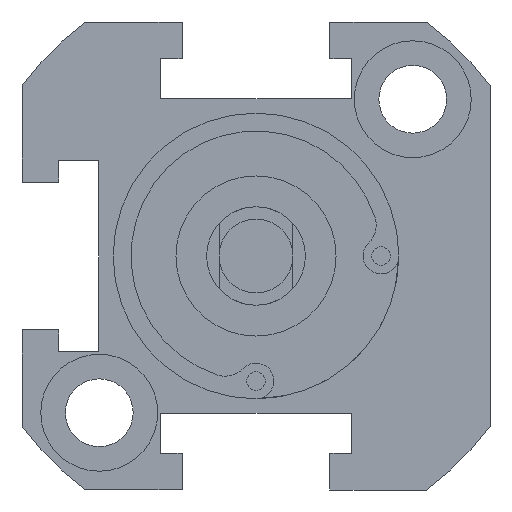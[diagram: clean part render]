
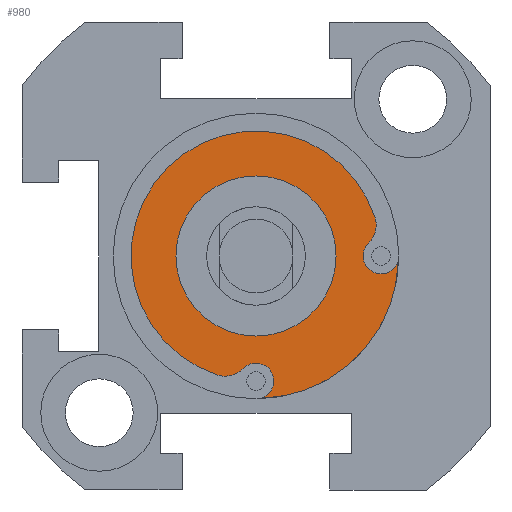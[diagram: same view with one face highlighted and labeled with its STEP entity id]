
A CAD part, front view. The second image highlights one B-rep face of the part: STEP entity #980.
In plain terms, the highlighted planar face has unit normal (0, -1, 0).
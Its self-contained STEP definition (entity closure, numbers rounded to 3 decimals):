
#18 = DIRECTION ( 'NONE',  ( 0., 1., 0. ) ) ;
#33 = DIRECTION ( 'NONE',  ( 0., -1., 0. ) ) ;
#121 = DIRECTION ( 'NONE',  ( 0., 0., 1. ) ) ;
#129 = AXIS2_PLACEMENT_3D ( 'NONE', #2914, #2089, #2354 ) ;
#158 = DIRECTION ( 'NONE',  ( 0., 1., 0. ) ) ;
#191 = DIRECTION ( 'NONE',  ( 0., 0., 1. ) ) ;
#252 = CARTESIAN_POINT ( 'NONE',  ( 9.146, -29., 1.046 ) ) ;
#289 = VERTEX_POINT ( 'NONE', #3203 ) ;
#309 = CIRCLE ( 'NONE', #2139, 10.15 ) ;
#422 = CARTESIAN_POINT ( 'NONE',  ( 0., -29., 0. ) ) ;
#432 = EDGE_CURVE ( 'NONE', #2273, #2830, #309, .T. ) ;
#452 = ORIENTED_EDGE ( 'NONE', *, *, #1601, .T. ) ;
#567 = VERTEX_POINT ( 'NONE', #2201 ) ;
#576 = CARTESIAN_POINT ( 'NONE',  ( -1.046, -29., -9.146 ) ) ;
#579 = CIRCLE ( 'NONE', #2379, 2. ) ;
#627 = EDGE_CURVE ( 'NONE', #1393, #2830, #1876, .T. ) ;
#777 = DIRECTION ( 'NONE',  ( 0., -1., 0. ) ) ;
#828 = VERTEX_POINT ( 'NONE', #576 ) ;
#889 = AXIS2_PLACEMENT_3D ( 'NONE', #1313, #158, #3255 ) ;
#898 = DIRECTION ( 'NONE',  ( 0., 0., -1. ) ) ;
#932 = CIRCLE ( 'NONE', #1199, 1.45 ) ;
#976 = DIRECTION ( 'NONE',  ( 0., 1., 0. ) ) ;
#980 = ADVANCED_FACE ( 'NONE', ( #1013, #2449 ), #1181, .T. ) ;
#1013 = FACE_BOUND ( 'NONE', #1910, .T. ) ;
#1078 = DIRECTION ( 'NONE',  ( 0., 0., 1. ) ) ;
#1105 = CARTESIAN_POINT ( 'NONE',  ( 0., -29., -6.5 ) ) ;
#1166 = EDGE_CURVE ( 'NONE', #1750, #567, #2964, .T. ) ;
#1181 = PLANE ( 'NONE',  #2078 ) ;
#1199 = AXIS2_PLACEMENT_3D ( 'NONE', #2057, #2343, #2320 ) ;
#1252 = CIRCLE ( 'NONE', #129, 2. ) ;
#1261 = DIRECTION ( 'NONE',  ( 0., 0., 1. ) ) ;
#1308 = DIRECTION ( 'NONE',  ( 0., 0., 1. ) ) ;
#1313 = CARTESIAN_POINT ( 'NONE',  ( 0., -29., 0. ) ) ;
#1326 = CARTESIAN_POINT ( 'NONE',  ( 0., -29., -10.15 ) ) ;
#1330 = EDGE_CURVE ( 'NONE', #289, #1393, #2781, .T. ) ;
#1393 = VERTEX_POINT ( 'NONE', #252 ) ;
#1547 = DIRECTION ( 'NONE',  ( 0., -1., 0. ) ) ;
#1577 = ORIENTED_EDGE ( 'NONE', *, *, #1166, .F. ) ;
#1578 = CIRCLE ( 'NONE', #889, 6.5 ) ;
#1601 = EDGE_CURVE ( 'NONE', #2273, #2869, #1252, .T. ) ;
#1642 = EDGE_CURVE ( 'NONE', #2550, #2916, #1578, .T. ) ;
#1647 = CARTESIAN_POINT ( 'NONE',  ( 7.761, -29., 2.489 ) ) ;
#1676 = AXIS2_PLACEMENT_3D ( 'NONE', #1985, #2817, #1078 ) ;
#1723 = CARTESIAN_POINT ( 'NONE',  ( 0., -29., 0. ) ) ;
#1735 = AXIS2_PLACEMENT_3D ( 'NONE', #1723, #18, #3150 ) ;
#1750 = VERTEX_POINT ( 'NONE', #2762 ) ;
#1776 = EDGE_CURVE ( 'NONE', #828, #567, #3260, .T. ) ;
#1876 = CIRCLE ( 'NONE', #2787, 2. ) ;
#1880 = CIRCLE ( 'NONE', #1735, 6.5 ) ;
#1888 = ORIENTED_EDGE ( 'NONE', *, *, #2589, .T. ) ;
#1910 = EDGE_LOOP ( 'NONE', ( #3433, #3401 ) ) ;
#1911 = CARTESIAN_POINT ( 'NONE',  ( 0., -29., 0. ) ) ;
#1922 = CARTESIAN_POINT ( 'NONE',  ( 9.665, -29., 3.099 ) ) ;
#1985 = CARTESIAN_POINT ( 'NONE',  ( 10.15, -29., 0. ) ) ;
#2057 = CARTESIAN_POINT ( 'NONE',  ( 10.15, -29., 0. ) ) ;
#2078 = AXIS2_PLACEMENT_3D ( 'NONE', #2349, #1547, #121 ) ;
#2089 = DIRECTION ( 'NONE',  ( 0., -1., 0. ) ) ;
#2139 = AXIS2_PLACEMENT_3D ( 'NONE', #422, #976, #1261 ) ;
#2201 = CARTESIAN_POINT ( 'NONE',  ( 0., -29., -11.6 ) ) ;
#2212 = CARTESIAN_POINT ( 'NONE',  ( 0., -29., 6.5 ) ) ;
#2263 = EDGE_CURVE ( 'NONE', #1750, #289, #932, .T. ) ;
#2273 = VERTEX_POINT ( 'NONE', #3186 ) ;
#2320 = DIRECTION ( 'NONE',  ( 0., 0., 1. ) ) ;
#2343 = DIRECTION ( 'NONE',  ( 0., 1., 0. ) ) ;
#2349 = CARTESIAN_POINT ( 'NONE',  ( 0., -29., 0. ) ) ;
#2354 = DIRECTION ( 'NONE',  ( 0., 0., -1. ) ) ;
#2379 = AXIS2_PLACEMENT_3D ( 'NONE', #3440, #33, #898 ) ;
#2449 = FACE_OUTER_BOUND ( 'NONE', #3571, .T. ) ;
#2481 = DIRECTION ( 'NONE',  ( 0., 1., 0. ) ) ;
#2534 = EDGE_CURVE ( 'NONE', #2916, #2550, #1880, .T. ) ;
#2539 = ORIENTED_EDGE ( 'NONE', *, *, #2263, .T. ) ;
#2550 = VERTEX_POINT ( 'NONE', #1105 ) ;
#2589 = EDGE_CURVE ( 'NONE', #2869, #828, #579, .T. ) ;
#2762 = CARTESIAN_POINT ( 'NONE',  ( 11.6, -29., 0. ) ) ;
#2781 = CIRCLE ( 'NONE', #1676, 1.45 ) ;
#2787 = AXIS2_PLACEMENT_3D ( 'NONE', #1647, #777, #2794 ) ;
#2794 = DIRECTION ( 'NONE',  ( 0., 0., -1. ) ) ;
#2817 = DIRECTION ( 'NONE',  ( 0., 1., 0. ) ) ;
#2830 = VERTEX_POINT ( 'NONE', #1922 ) ;
#2869 = VERTEX_POINT ( 'NONE', #3101 ) ;
#2914 = CARTESIAN_POINT ( 'NONE',  ( -2.489, -29., -7.761 ) ) ;
#2916 = VERTEX_POINT ( 'NONE', #2212 ) ;
#2933 = ORIENTED_EDGE ( 'NONE', *, *, #1776, .T. ) ;
#2964 = CIRCLE ( 'NONE', #3435, 11.6 ) ;
#3101 = CARTESIAN_POINT ( 'NONE',  ( -2.489, -29., -9.761 ) ) ;
#3150 = DIRECTION ( 'NONE',  ( 0., 0., 1. ) ) ;
#3186 = CARTESIAN_POINT ( 'NONE',  ( -3.099, -29., -9.665 ) ) ;
#3203 = CARTESIAN_POINT ( 'NONE',  ( 10.15, -29., -1.45 ) ) ;
#3255 = DIRECTION ( 'NONE',  ( 0., 0., 1. ) ) ;
#3260 = CIRCLE ( 'NONE', #3308, 1.45 ) ;
#3308 = AXIS2_PLACEMENT_3D ( 'NONE', #1326, #3316, #1308 ) ;
#3316 = DIRECTION ( 'NONE',  ( 0., 1., 0. ) ) ;
#3361 = ORIENTED_EDGE ( 'NONE', *, *, #1330, .T. ) ;
#3401 = ORIENTED_EDGE ( 'NONE', *, *, #2534, .T. ) ;
#3433 = ORIENTED_EDGE ( 'NONE', *, *, #1642, .T. ) ;
#3435 = AXIS2_PLACEMENT_3D ( 'NONE', #1911, #2481, #191 ) ;
#3440 = CARTESIAN_POINT ( 'NONE',  ( -2.489, -29., -7.761 ) ) ;
#3519 = ORIENTED_EDGE ( 'NONE', *, *, #432, .F. ) ;
#3571 = EDGE_LOOP ( 'NONE', ( #2539, #3361, #3684, #3519, #452, #1888, #2933, #1577 ) ) ;
#3684 = ORIENTED_EDGE ( 'NONE', *, *, #627, .T. ) ;
